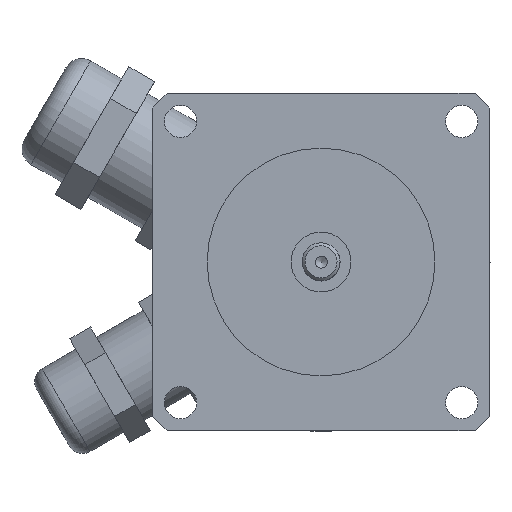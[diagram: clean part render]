
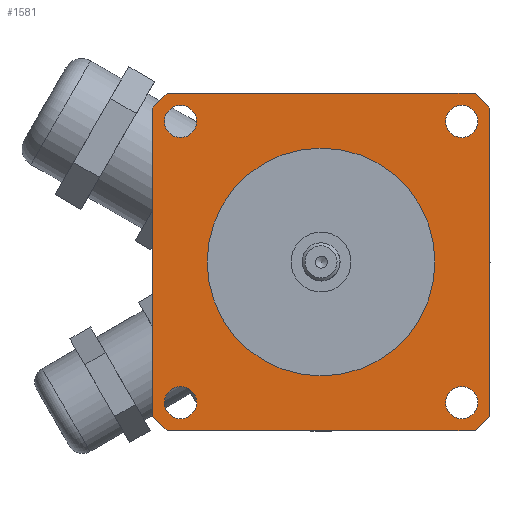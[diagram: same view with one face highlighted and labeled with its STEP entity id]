
A CAD part, top view. The second image highlights one B-rep face of the part: STEP entity #1581.
In plain terms, the highlighted planar face has unit normal (0, 0, 1).
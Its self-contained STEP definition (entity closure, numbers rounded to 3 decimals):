
#1185=CARTESIAN_POINT('',(19.05,0.,42.7));
#1186=VERTEX_POINT('',#1185);
#1187=CARTESIAN_POINT('',(0.,0.,42.7));
#1188=DIRECTION('',(0.0,0.0,-1.0));
#1189=DIRECTION('',(-1.0,0.0,0.0));
#1190=AXIS2_PLACEMENT_3D('',#1187,#1188,#1189);
#1191=CIRCLE('',#1190,19.05);
#1192=EDGE_CURVE('',#1186,#1186,#1191,.T.);
#1235=CARTESIAN_POINT('',(26.211,23.511,42.7));
#1236=VERTEX_POINT('',#1235);
#1237=CARTESIAN_POINT('',(23.511,23.511,42.7));
#1238=DIRECTION('',(0.0,0.0,-1.0));
#1239=DIRECTION('',(-1.0,0.0,0.0));
#1240=AXIS2_PLACEMENT_3D('',#1237,#1238,#1239);
#1241=CIRCLE('',#1240,2.7);
#1242=EDGE_CURVE('',#1236,#1236,#1241,.T.);
#1255=CARTESIAN_POINT('',(26.211,-23.511,42.7));
#1256=VERTEX_POINT('',#1255);
#1257=CARTESIAN_POINT('',(23.511,-23.511,42.7));
#1258=DIRECTION('',(0.0,0.0,-1.0));
#1259=DIRECTION('',(-1.0,0.0,0.0));
#1260=AXIS2_PLACEMENT_3D('',#1257,#1258,#1259);
#1261=CIRCLE('',#1260,2.7);
#1262=EDGE_CURVE('',#1256,#1256,#1261,.T.);
#1275=CARTESIAN_POINT('',(-20.811,23.511,42.7));
#1276=VERTEX_POINT('',#1275);
#1277=CARTESIAN_POINT('',(-23.511,23.511,42.7));
#1278=DIRECTION('',(0.0,0.0,-1.0));
#1279=DIRECTION('',(-1.0,0.0,0.0));
#1280=AXIS2_PLACEMENT_3D('',#1277,#1278,#1279);
#1281=CIRCLE('',#1280,2.7);
#1282=EDGE_CURVE('',#1276,#1276,#1281,.T.);
#1295=CARTESIAN_POINT('',(-20.811,-23.511,42.7));
#1296=VERTEX_POINT('',#1295);
#1297=CARTESIAN_POINT('',(-23.511,-23.511,42.7));
#1298=DIRECTION('',(0.0,0.0,-1.0));
#1299=DIRECTION('',(-1.0,0.0,0.0));
#1300=AXIS2_PLACEMENT_3D('',#1297,#1298,#1299);
#1301=CIRCLE('',#1300,2.7);
#1302=EDGE_CURVE('',#1296,#1296,#1301,.T.);
#1315=CARTESIAN_POINT('',(25.75,28.25,42.7));
#1316=VERTEX_POINT('',#1315);
#1317=CARTESIAN_POINT('',(28.25,25.75,42.7));
#1318=VERTEX_POINT('',#1317);
#1319=CARTESIAN_POINT('',(25.75,28.25,42.7));
#1320=DIRECTION('',(0.707,-0.707,0.0));
#1321=VECTOR('',#1320,3.536);
#1322=LINE('',#1319,#1321);
#1323=EDGE_CURVE('',#1316,#1318,#1322,.T.);
#1346=CARTESIAN_POINT('',(28.25,-25.75,42.7));
#1347=VERTEX_POINT('',#1346);
#1348=CARTESIAN_POINT('',(28.25,25.75,42.7));
#1349=DIRECTION('',(0.0,-1.0,0.0));
#1350=VECTOR('',#1349,51.5);
#1351=LINE('',#1348,#1350);
#1352=EDGE_CURVE('',#1318,#1347,#1351,.T.);
#1386=CARTESIAN_POINT('',(25.75,-28.25,42.7));
#1387=VERTEX_POINT('',#1386);
#1388=CARTESIAN_POINT('',(28.25,-25.75,42.7));
#1389=DIRECTION('',(-0.707,-0.707,0.0));
#1390=VECTOR('',#1389,3.536);
#1391=LINE('',#1388,#1390);
#1392=EDGE_CURVE('',#1347,#1387,#1391,.T.);
#1410=CARTESIAN_POINT('',(-25.75,-28.25,42.7));
#1411=VERTEX_POINT('',#1410);
#1412=CARTESIAN_POINT('',(25.75,-28.25,42.7));
#1413=DIRECTION('',(-1.0,0.0,0.0));
#1414=VECTOR('',#1413,51.5);
#1415=LINE('',#1412,#1414);
#1416=EDGE_CURVE('',#1387,#1411,#1415,.T.);
#1441=CARTESIAN_POINT('',(-28.25,-25.75,42.7));
#1442=VERTEX_POINT('',#1441);
#1443=CARTESIAN_POINT('',(-25.75,-28.25,42.7));
#1444=DIRECTION('',(-0.707,0.707,0.0));
#1445=VECTOR('',#1444,3.536);
#1446=LINE('',#1443,#1445);
#1447=EDGE_CURVE('',#1411,#1442,#1446,.T.);
#1465=CARTESIAN_POINT('',(-28.25,25.75,42.7));
#1466=VERTEX_POINT('',#1465);
#1467=CARTESIAN_POINT('',(-28.25,-25.75,42.7));
#1468=DIRECTION('',(0.0,1.0,0.0));
#1469=VECTOR('',#1468,51.5);
#1470=LINE('',#1467,#1469);
#1471=EDGE_CURVE('',#1442,#1466,#1470,.T.);
#1496=CARTESIAN_POINT('',(-25.75,28.25,42.7));
#1497=VERTEX_POINT('',#1496);
#1498=CARTESIAN_POINT('',(-28.25,25.75,42.7));
#1499=DIRECTION('',(0.707,0.707,0.0));
#1500=VECTOR('',#1499,3.536);
#1501=LINE('',#1498,#1500);
#1502=EDGE_CURVE('',#1466,#1497,#1501,.T.);
#1520=CARTESIAN_POINT('',(-25.75,28.25,42.7));
#1521=DIRECTION('',(1.0,0.0,0.0));
#1522=VECTOR('',#1521,51.5);
#1523=LINE('',#1520,#1522);
#1524=EDGE_CURVE('',#1497,#1316,#1523,.T.);
#1551=CARTESIAN_POINT('',(0.,0.,42.7));
#1552=DIRECTION('',(0.0,0.0,1.0));
#1553=DIRECTION('',(1.0,0.0,0.0));
#1554=AXIS2_PLACEMENT_3D('',#1551,#1552,#1553);
#1555=PLANE('',#1554);
#1556=ORIENTED_EDGE('',*,*,#1323,.F.);
#1557=ORIENTED_EDGE('',*,*,#1524,.F.);
#1558=ORIENTED_EDGE('',*,*,#1502,.F.);
#1559=ORIENTED_EDGE('',*,*,#1471,.F.);
#1560=ORIENTED_EDGE('',*,*,#1447,.F.);
#1561=ORIENTED_EDGE('',*,*,#1416,.F.);
#1562=ORIENTED_EDGE('',*,*,#1392,.F.);
#1563=ORIENTED_EDGE('',*,*,#1352,.F.);
#1564=EDGE_LOOP('',(#1556,#1557,#1558,#1559,#1560,#1561,#1562,#1563));
#1565=FACE_OUTER_BOUND('',#1564,.T.);
#1566=ORIENTED_EDGE('',*,*,#1192,.T.);
#1567=EDGE_LOOP('',(#1566));
#1568=FACE_BOUND('',#1567,.T.);
#1569=ORIENTED_EDGE('',*,*,#1242,.T.);
#1570=EDGE_LOOP('',(#1569));
#1571=FACE_BOUND('',#1570,.T.);
#1572=ORIENTED_EDGE('',*,*,#1262,.T.);
#1573=EDGE_LOOP('',(#1572));
#1574=FACE_BOUND('',#1573,.T.);
#1575=ORIENTED_EDGE('',*,*,#1282,.T.);
#1576=EDGE_LOOP('',(#1575));
#1577=FACE_BOUND('',#1576,.T.);
#1578=ORIENTED_EDGE('',*,*,#1302,.T.);
#1579=EDGE_LOOP('',(#1578));
#1580=FACE_BOUND('',#1579,.T.);
#1581=ADVANCED_FACE('',(#1565,#1568,#1571,#1574,#1577,#1580),#1555,.T.);
